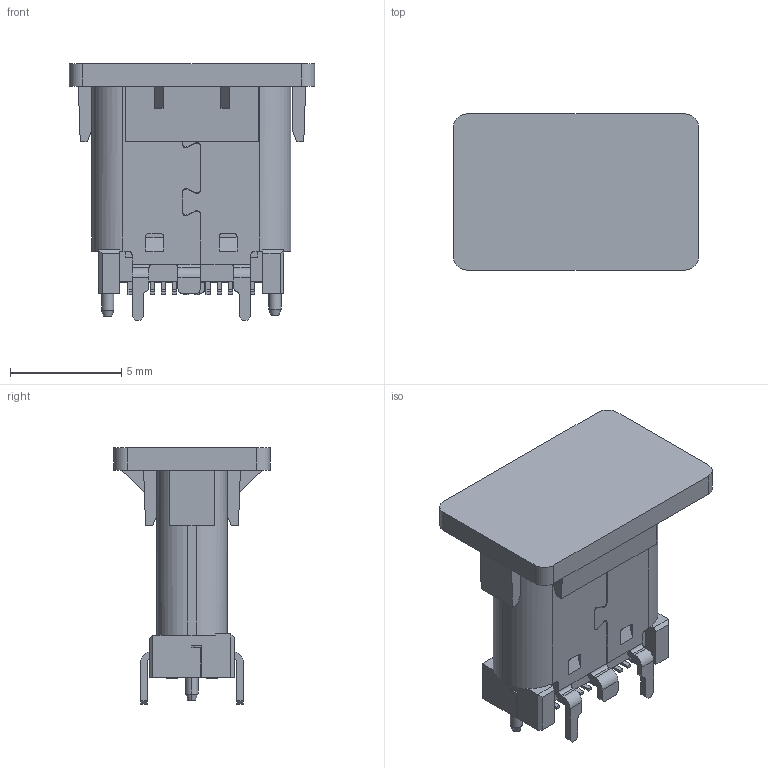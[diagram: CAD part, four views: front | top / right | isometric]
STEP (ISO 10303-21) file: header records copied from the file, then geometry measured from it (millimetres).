
FILE_DESCRIPTION((''),'2;1');
FILE_NAME('1022406GR002_TYPE-C_ASM','2018-11-08T',('Administrator'),(''),'PRO/ENGINEER BY PARAMETRIC TECHNOLOGY CORPORATION, 2010280','PRO/ENGINEER BY PARAMETRIC TECHNOLOGY CORPORATION, 2010280','');
FILE_SCHEMA(('CONFIG_CONTROL_DESIGN'));
Products named in the file (3): MSBR-2; MSBR-1; 1022406GR002_TYPE-C_ASM
Assembly tree (2 placements, depth 2):
  1022406GR002_TYPE-C_ASM
    MSBR-2
    MSBR-1
Bounding box: 11 x 7 x 11.5 mm (x, y, z)
Volume: 238.9 mm3; surface area: 1118 mm2
Topology: 2 solids, 7 shells, 2034 faces, 5916 edges, 3857 vertices
Faces by surface type: plane 1587, cylinder 417, cone 28, extrusion 2
Entity records: 67037 total; most frequent: CARTESIAN_POINT 12637, ORIENTED_EDGE 11832, DIRECTION 10665, EDGE_CURVE 5916, VECTOR 4911, LINE 4909, VERTEX_POINT 3857, AXIS2_PLACEMENT_3D 2877
